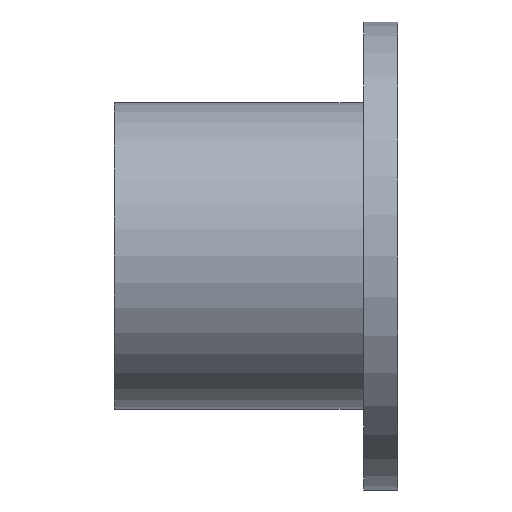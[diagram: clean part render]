
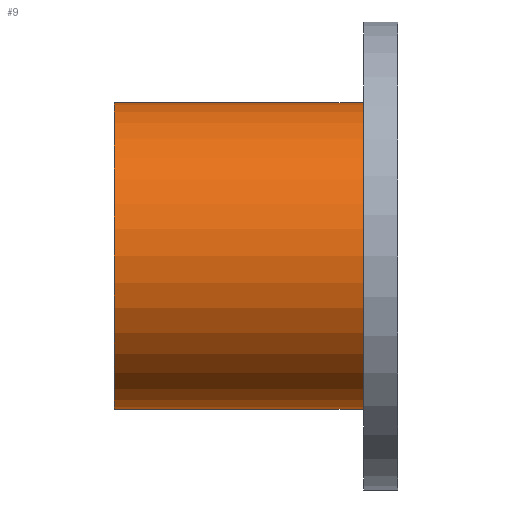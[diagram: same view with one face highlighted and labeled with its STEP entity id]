
A CAD part, left-side view. The second image highlights one B-rep face of the part: STEP entity #9.
In plain terms, the highlighted cylindrical face has radius 54 mm (diameter 108 mm), a partial arc.
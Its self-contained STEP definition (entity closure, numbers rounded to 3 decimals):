
#9 = ADVANCED_FACE ( 'NONE', ( #1045 ), #112, .T. ) ;
#12 = DIRECTION ( 'NONE',  ( 0., 0., 1. ) ) ;
#95 = EDGE_CURVE ( 'NONE', #376, #838, #853, .T. ) ;
#112 = CYLINDRICAL_SURFACE ( 'NONE', #635, 54. ) ;
#209 = DIRECTION ( 'NONE',  ( 0., 0., 1. ) ) ;
#273 = VERTEX_POINT ( 'NONE', #773 ) ;
#275 = CARTESIAN_POINT ( 'NONE',  ( 0., 12., 0. ) ) ;
#301 = CARTESIAN_POINT ( 'NONE',  ( 0., 100., 54. ) ) ;
#328 = EDGE_CURVE ( 'NONE', #376, #273, #633, .T. ) ;
#376 = VERTEX_POINT ( 'NONE', #781 ) ;
#386 = EDGE_CURVE ( 'NONE', #273, #785, #509, .T. ) ;
#466 = DIRECTION ( 'NONE',  ( 0., 1., 0. ) ) ;
#499 = CARTESIAN_POINT ( 'NONE',  ( 0., 8., 0. ) ) ;
#509 = CIRCLE ( 'NONE', #543, 54. ) ;
#528 = CARTESIAN_POINT ( 'NONE',  ( 0., 12., -54. ) ) ;
#532 = ORIENTED_EDGE ( 'NONE', *, *, #328, .F. ) ;
#538 = DIRECTION ( 'NONE',  ( 0., 1., 0. ) ) ;
#543 = AXIS2_PLACEMENT_3D ( 'NONE', #631, #466, #718 ) ;
#546 = LINE ( 'NONE', #622, #868 ) ;
#599 = ORIENTED_EDGE ( 'NONE', *, *, #386, .F. ) ;
#620 = EDGE_LOOP ( 'NONE', ( #532, #705, #1054, #599 ) ) ;
#622 = CARTESIAN_POINT ( 'NONE',  ( 0., 12., 54. ) ) ;
#631 = CARTESIAN_POINT ( 'NONE',  ( 0., 100., 0. ) ) ;
#633 = LINE ( 'NONE', #528, #892 ) ;
#635 = AXIS2_PLACEMENT_3D ( 'NONE', #275, #538, #209 ) ;
#671 = DIRECTION ( 'NONE',  ( 0., 1., 0. ) ) ;
#686 = EDGE_CURVE ( 'NONE', #838, #785, #546, .T. ) ;
#705 = ORIENTED_EDGE ( 'NONE', *, *, #95, .T. ) ;
#718 = DIRECTION ( 'NONE',  ( 0., 0., 1. ) ) ;
#767 = AXIS2_PLACEMENT_3D ( 'NONE', #499, #671, #12 ) ;
#773 = CARTESIAN_POINT ( 'NONE',  ( 0., 100., -54. ) ) ;
#781 = CARTESIAN_POINT ( 'NONE',  ( 0., 8., -54. ) ) ;
#785 = VERTEX_POINT ( 'NONE', #301 ) ;
#838 = VERTEX_POINT ( 'NONE', #994 ) ;
#853 = CIRCLE ( 'NONE', #767, 54. ) ;
#868 = VECTOR ( 'NONE', #1034, 1000. ) ;
#892 = VECTOR ( 'NONE', #1032, 1000. ) ;
#994 = CARTESIAN_POINT ( 'NONE',  ( 0., 8., 54. ) ) ;
#1032 = DIRECTION ( 'NONE',  ( 0., 1., 0. ) ) ;
#1034 = DIRECTION ( 'NONE',  ( 0., 1., 0. ) ) ;
#1045 = FACE_OUTER_BOUND ( 'NONE', #620, .T. ) ;
#1054 = ORIENTED_EDGE ( 'NONE', *, *, #686, .T. ) ;
